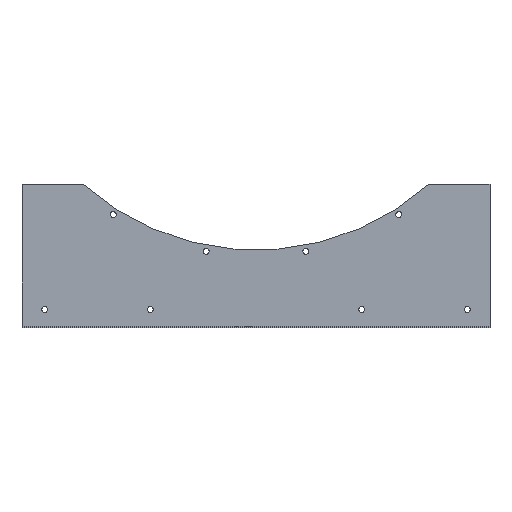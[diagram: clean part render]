
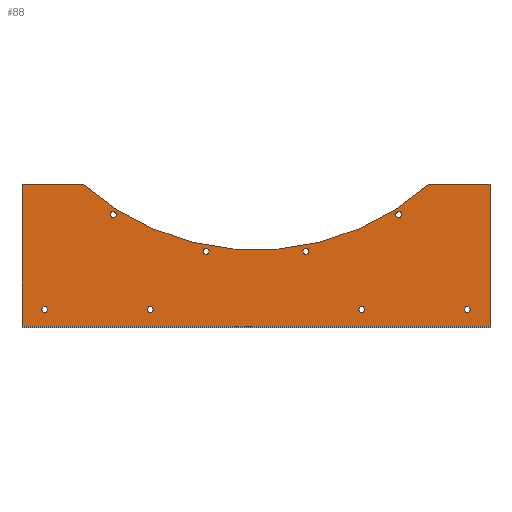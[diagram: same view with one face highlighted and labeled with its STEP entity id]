
A CAD part, top view. The second image highlights one B-rep face of the part: STEP entity #88.
In plain terms, the highlighted planar face has unit normal (0, 0, 1).
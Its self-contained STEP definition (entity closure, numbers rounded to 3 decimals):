
#88=ADVANCED_FACE('',(#184,#185,#186,#187,#188,#189,#190,#191,#192),#193,.T.);
#184=FACE_BOUND('',#285,.T.);
#185=FACE_BOUND('',#286,.T.);
#186=FACE_BOUND('',#287,.T.);
#187=FACE_BOUND('',#288,.T.);
#188=FACE_BOUND('',#289,.T.);
#189=FACE_BOUND('',#290,.T.);
#190=FACE_BOUND('',#291,.T.);
#191=FACE_BOUND('',#292,.T.);
#192=FACE_OUTER_BOUND('',#293,.T.);
#193=PLANE('',#294);
#285=EDGE_LOOP('',(#485,#486));
#286=EDGE_LOOP('',(#487,#488));
#287=EDGE_LOOP('',(#489,#490));
#288=EDGE_LOOP('',(#491,#492));
#289=EDGE_LOOP('',(#493,#494));
#290=EDGE_LOOP('',(#495,#496));
#291=EDGE_LOOP('',(#497,#498));
#292=EDGE_LOOP('',(#499,#500));
#293=EDGE_LOOP('',(#501,#502,#503,#504,#505,#506));
#294=AXIS2_PLACEMENT_3D('',#507,#508,#509);
#485=ORIENTED_EDGE('',*,*,#599,.T.);
#486=ORIENTED_EDGE('',*,*,#604,.T.);
#487=ORIENTED_EDGE('',*,*,#594,.T.);
#488=ORIENTED_EDGE('',*,*,#607,.T.);
#489=ORIENTED_EDGE('',*,*,#589,.T.);
#490=ORIENTED_EDGE('',*,*,#610,.T.);
#491=ORIENTED_EDGE('',*,*,#584,.T.);
#492=ORIENTED_EDGE('',*,*,#613,.T.);
#493=ORIENTED_EDGE('',*,*,#579,.T.);
#494=ORIENTED_EDGE('',*,*,#616,.T.);
#495=ORIENTED_EDGE('',*,*,#574,.T.);
#496=ORIENTED_EDGE('',*,*,#619,.T.);
#497=ORIENTED_EDGE('',*,*,#569,.T.);
#498=ORIENTED_EDGE('',*,*,#622,.T.);
#499=ORIENTED_EDGE('',*,*,#564,.T.);
#500=ORIENTED_EDGE('',*,*,#625,.T.);
#501=ORIENTED_EDGE('',*,*,#627,.T.);
#502=ORIENTED_EDGE('',*,*,#641,.F.);
#503=ORIENTED_EDGE('',*,*,#642,.F.);
#504=ORIENTED_EDGE('',*,*,#643,.F.);
#505=ORIENTED_EDGE('',*,*,#644,.F.);
#506=ORIENTED_EDGE('',*,*,#638,.F.);
#507=CARTESIAN_POINT('',(0.0,3.0,-27.0));
#508=DIRECTION('',(0.0,0.0,1.0));
#509=DIRECTION('',(1.0,0.0,0.0));
#564=EDGE_CURVE('',#664,#661,#665,.T.);
#569=EDGE_CURVE('',#673,#670,#674,.T.);
#574=EDGE_CURVE('',#682,#679,#683,.T.);
#579=EDGE_CURVE('',#691,#688,#692,.T.);
#584=EDGE_CURVE('',#700,#697,#701,.T.);
#589=EDGE_CURVE('',#709,#706,#710,.T.);
#594=EDGE_CURVE('',#718,#715,#719,.T.);
#599=EDGE_CURVE('',#727,#724,#728,.T.);
#604=EDGE_CURVE('',#724,#727,#734,.T.);
#607=EDGE_CURVE('',#715,#718,#737,.T.);
#610=EDGE_CURVE('',#706,#709,#740,.T.);
#613=EDGE_CURVE('',#697,#700,#743,.T.);
#616=EDGE_CURVE('',#688,#691,#746,.T.);
#619=EDGE_CURVE('',#679,#682,#749,.T.);
#622=EDGE_CURVE('',#670,#673,#752,.T.);
#625=EDGE_CURVE('',#661,#664,#755,.T.);
#627=EDGE_CURVE('',#757,#758,#759,.T.);
#638=EDGE_CURVE('',#757,#776,#777,.T.);
#641=EDGE_CURVE('',#780,#758,#781,.T.);
#642=EDGE_CURVE('',#782,#780,#783,.T.);
#643=EDGE_CURVE('',#784,#782,#785,.T.);
#644=EDGE_CURVE('',#776,#784,#786,.T.);
#661=VERTEX_POINT('',#807);
#664=VERTEX_POINT('',#811);
#665=CIRCLE('',#812,6.5);
#670=VERTEX_POINT('',#818);
#673=VERTEX_POINT('',#822);
#674=CIRCLE('',#823,6.5);
#679=VERTEX_POINT('',#829);
#682=VERTEX_POINT('',#833);
#683=CIRCLE('',#834,6.5);
#688=VERTEX_POINT('',#840);
#691=VERTEX_POINT('',#844);
#692=CIRCLE('',#845,6.5);
#697=VERTEX_POINT('',#851);
#700=VERTEX_POINT('',#855);
#701=CIRCLE('',#856,6.5);
#706=VERTEX_POINT('',#862);
#709=VERTEX_POINT('',#866);
#710=CIRCLE('',#867,6.5);
#715=VERTEX_POINT('',#873);
#718=VERTEX_POINT('',#877);
#719=CIRCLE('',#878,6.5);
#724=VERTEX_POINT('',#884);
#727=VERTEX_POINT('',#888);
#728=CIRCLE('',#889,6.5);
#734=CIRCLE('',#896,6.5);
#737=CIRCLE('',#899,6.5);
#740=CIRCLE('',#902,6.5);
#743=CIRCLE('',#905,6.5);
#746=CIRCLE('',#908,6.5);
#749=CIRCLE('',#911,6.5);
#752=CIRCLE('',#914,6.5);
#755=CIRCLE('',#917,6.5);
#757=VERTEX_POINT('',#919);
#758=VERTEX_POINT('',#920);
#759=CIRCLE('',#921,574.0);
#776=VERTEX_POINT('',#945);
#777=LINE('',#946,#947);
#780=VERTEX_POINT('',#951);
#781=LINE('',#952,#953);
#782=VERTEX_POINT('',#954);
#783=LINE('',#955,#956);
#784=VERTEX_POINT('',#957);
#785=LINE('',#958,#959);
#786=LINE('',#960,#961);
#807=CARTESIAN_POINT('',(-459.5,-118.0,-27.0));
#811=CARTESIAN_POINT('',(-472.5,-118.0,-27.0));
#812=AXIS2_PLACEMENT_3D('',#991,#992,#993);
#818=CARTESIAN_POINT('',(472.5,-118.0,-27.0));
#822=CARTESIAN_POINT('',(459.5,-118.0,-27.0));
#823=AXIS2_PLACEMENT_3D('',#999,#1000,#1001);
#829=CARTESIAN_POINT('',(-226.5,-118.0,-27.0));
#833=CARTESIAN_POINT('',(-239.5,-118.0,-27.0));
#834=AXIS2_PLACEMENT_3D('',#1007,#1008,#1009);
#840=CARTESIAN_POINT('',(239.5,-118.0,-27.0));
#844=CARTESIAN_POINT('',(226.5,-118.0,-27.0));
#845=AXIS2_PLACEMENT_3D('',#1015,#1016,#1017);
#851=CARTESIAN_POINT('',(116.378,11.615,-27.0));
#855=CARTESIAN_POINT('',(103.608,9.179,-27.0));
#856=AXIS2_PLACEMENT_3D('',#1023,#1024,#1025);
#862=CARTESIAN_POINT('',(-103.608,9.179,-27.0));
#866=CARTESIAN_POINT('',(-116.378,11.615,-27.0));
#867=AXIS2_PLACEMENT_3D('',#1031,#1032,#1033);
#873=CARTESIAN_POINT('',(-309.042,87.897,-27.0));
#877=CARTESIAN_POINT('',(-320.018,94.862,-27.0));
#878=AXIS2_PLACEMENT_3D('',#1039,#1040,#1041);
#884=CARTESIAN_POINT('',(320.018,94.862,-27.0));
#888=CARTESIAN_POINT('',(309.042,87.897,-27.0));
#889=AXIS2_PLACEMENT_3D('',#1047,#1048,#1049);
#896=AXIS2_PLACEMENT_3D('',#1057,#1058,#1059);
#899=AXIS2_PLACEMENT_3D('',#1063,#1064,#1065);
#902=AXIS2_PLACEMENT_3D('',#1069,#1070,#1071);
#905=AXIS2_PLACEMENT_3D('',#1075,#1076,#1077);
#908=AXIS2_PLACEMENT_3D('',#1081,#1082,#1083);
#911=AXIS2_PLACEMENT_3D('',#1087,#1088,#1089);
#914=AXIS2_PLACEMENT_3D('',#1093,#1094,#1095);
#917=AXIS2_PLACEMENT_3D('',#1099,#1100,#1101);
#919=CARTESIAN_POINT('',(381.359,158.0,-27.0));
#920=CARTESIAN_POINT('',(-381.359,158.0,-27.0));
#921=AXIS2_PLACEMENT_3D('',#1102,#1103,#1104);
#945=CARTESIAN_POINT('',(516.0,158.0,-27.0));
#946=CARTESIAN_POINT('',(0.0,158.0,-27.0));
#947=VECTOR('',#1115,1.0);
#951=CARTESIAN_POINT('',(-516.0,158.0,-27.0));
#952=CARTESIAN_POINT('',(0.0,158.0,-27.0));
#953=VECTOR('',#1117,1.0);
#954=CARTESIAN_POINT('',(-516.0,-155.0,-27.0));
#955=CARTESIAN_POINT('',(-516.0,1.5,-27.0));
#956=VECTOR('',#1118,1.0);
#957=CARTESIAN_POINT('',(516.0,-155.0,-27.0));
#958=CARTESIAN_POINT('',(0.0,-155.0,-27.0));
#959=VECTOR('',#1119,1.0);
#960=CARTESIAN_POINT('',(516.0,1.5,-27.0));
#961=VECTOR('',#1120,1.0);
#991=CARTESIAN_POINT('',(-466.0,-118.0,-27.0));
#992=DIRECTION('',(0.0,0.0,-1.0));
#993=DIRECTION('',(1.0,0.0,0.0));
#999=CARTESIAN_POINT('',(466.0,-118.0,-27.0));
#1000=DIRECTION('',(0.0,0.0,-1.0));
#1001=DIRECTION('',(1.0,0.0,0.0));
#1007=CARTESIAN_POINT('',(-233.0,-118.0,-27.0));
#1008=DIRECTION('',(0.0,0.0,-1.0));
#1009=DIRECTION('',(1.0,0.0,0.0));
#1015=CARTESIAN_POINT('',(233.0,-118.0,-27.0));
#1016=DIRECTION('',(0.0,0.0,-1.0));
#1017=DIRECTION('',(1.0,0.0,0.0));
#1023=CARTESIAN_POINT('',(109.993,10.397,-27.0));
#1024=DIRECTION('',(0.0,0.0,-1.0));
#1025=DIRECTION('',(0.982,0.187,0.0));
#1031=CARTESIAN_POINT('',(-109.993,10.397,-27.0));
#1032=DIRECTION('',(0.0,-0.0,-1.0));
#1033=DIRECTION('',(0.982,-0.187,0.0));
#1039=CARTESIAN_POINT('',(-314.53,91.38,-27.0));
#1040=DIRECTION('',(0.0,-0.0,-1.0));
#1041=DIRECTION('',(0.844,-0.536,0.0));
#1047=CARTESIAN_POINT('',(314.53,91.38,-27.0));
#1048=DIRECTION('',(0.0,0.0,-1.0));
#1049=DIRECTION('',(0.844,0.536,0.0));
#1057=CARTESIAN_POINT('',(314.53,91.38,-27.0));
#1058=DIRECTION('',(0.0,0.0,-1.0));
#1059=DIRECTION('',(0.844,0.536,0.0));
#1063=CARTESIAN_POINT('',(-314.53,91.38,-27.0));
#1064=DIRECTION('',(0.0,-0.0,-1.0));
#1065=DIRECTION('',(0.844,-0.536,0.0));
#1069=CARTESIAN_POINT('',(-109.993,10.397,-27.0));
#1070=DIRECTION('',(0.0,-0.0,-1.0));
#1071=DIRECTION('',(0.982,-0.187,0.0));
#1075=CARTESIAN_POINT('',(109.993,10.397,-27.0));
#1076=DIRECTION('',(0.0,0.0,-1.0));
#1077=DIRECTION('',(0.982,0.187,0.0));
#1081=CARTESIAN_POINT('',(233.0,-118.0,-27.0));
#1082=DIRECTION('',(0.0,0.0,-1.0));
#1083=DIRECTION('',(1.0,0.0,0.0));
#1087=CARTESIAN_POINT('',(-233.0,-118.0,-27.0));
#1088=DIRECTION('',(0.0,0.0,-1.0));
#1089=DIRECTION('',(1.0,0.0,0.0));
#1093=CARTESIAN_POINT('',(466.0,-118.0,-27.0));
#1094=DIRECTION('',(0.0,0.0,-1.0));
#1095=DIRECTION('',(1.0,0.0,0.0));
#1099=CARTESIAN_POINT('',(-466.0,-118.0,-27.0));
#1100=DIRECTION('',(0.0,0.0,-1.0));
#1101=DIRECTION('',(1.0,0.0,0.0));
#1102=CARTESIAN_POINT('',(0.0,587.0,-27.0));
#1103=DIRECTION('',(0.0,0.0,-1.0));
#1104=DIRECTION('',(1.0,0.0,0.0));
#1115=DIRECTION('',(1.0,0.0,-0.0));
#1117=DIRECTION('',(1.0,0.0,-0.0));
#1118=DIRECTION('',(0.0,1.0,0.0));
#1119=DIRECTION('',(-1.0,0.0,0.0));
#1120=DIRECTION('',(0.0,-1.0,0.0));
